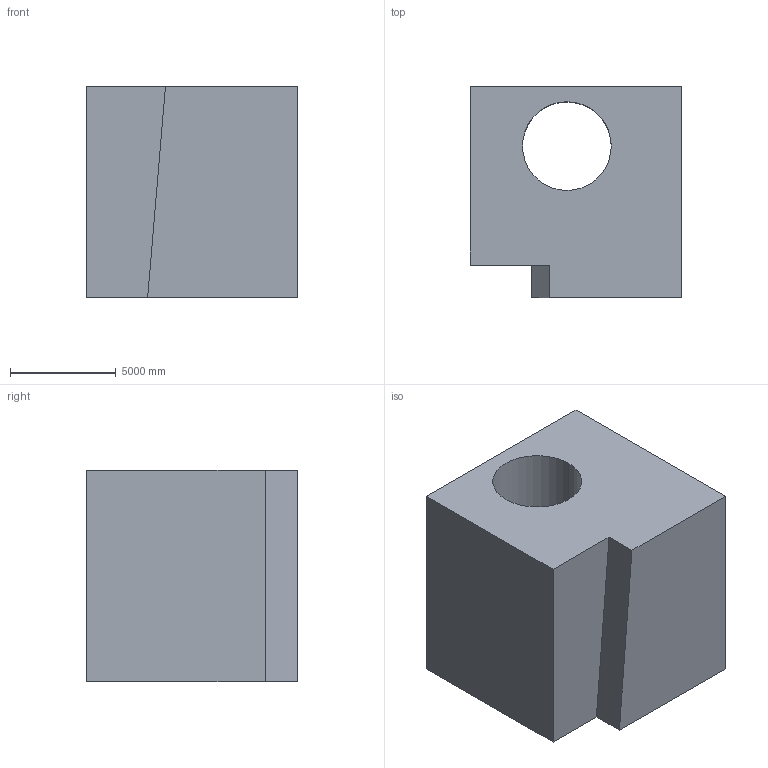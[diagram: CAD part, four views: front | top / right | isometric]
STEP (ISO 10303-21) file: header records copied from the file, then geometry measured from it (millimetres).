
FILE_DESCRIPTION (( 'STEP AP203' ), '1' );
FILE_NAME ('102.STEP', '2022-07-28T13:37:13', ( 'user' ), ( '' ), 'SwSTEP 2.0', 'SolidWorks 2021', '' );
FILE_SCHEMA (( 'CONFIG_CONTROL_DESIGN' ));
Length unit declared in the file: centimetre
Products named in the file (1): 102
Bounding box: 10000 x 10000 x 10000 mm (x, y, z)
Volume: 810686987431.9 mm3; surface area: 694028860.4 mm2
Topology: 1 solids, 1 shells, 10 faces, 24 edges, 16 vertices
Faces by surface type: plane 8, cylinder 2
Entity records: 373 total; most frequent: CARTESIAN_POINT 51, DIRECTION 50, ORIENTED_EDGE 48, EDGE_CURVE 24, VECTOR 20, LINE 20, VERTEX_POINT 16, AXIS2_PLACEMENT_3D 15
